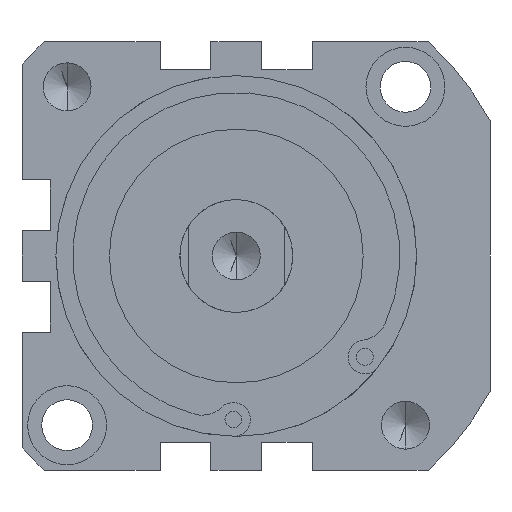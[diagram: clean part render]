
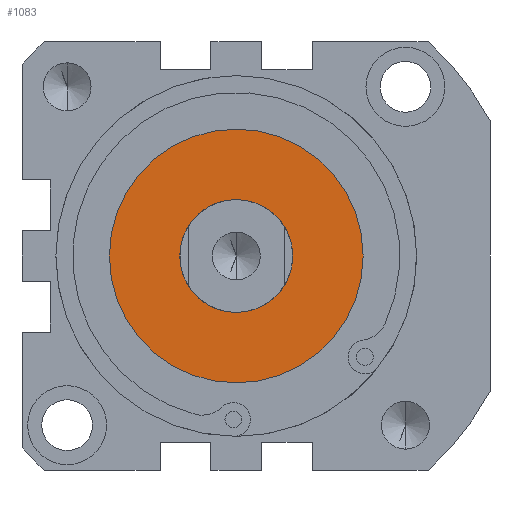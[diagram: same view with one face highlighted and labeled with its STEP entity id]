
A CAD part, front view. The second image highlights one B-rep face of the part: STEP entity #1083.
In plain terms, the highlighted planar face has unit normal (0, -1, 0).
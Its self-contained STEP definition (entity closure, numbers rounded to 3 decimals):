
#24 = FACE_OUTER_BOUND ( 'NONE', #159, .T. ) ;
#159 = EDGE_LOOP ( 'NONE', ( #4289, #925 ) ) ;
#205 = PLANE ( 'NONE',  #1124 ) ;
#222 = EDGE_CURVE ( 'NONE', #1176, #2982, #4342, .T. ) ;
#253 = CARTESIAN_POINT ( 'NONE',  ( 0., -56., 22.5 ) ) ;
#595 = AXIS2_PLACEMENT_3D ( 'NONE', #2930, #1870, #1583 ) ;
#875 = CARTESIAN_POINT ( 'NONE',  ( 0., -56., 0. ) ) ;
#925 = ORIENTED_EDGE ( 'NONE', *, *, #222, .F. ) ;
#931 = EDGE_CURVE ( 'NONE', #2982, #1176, #1185, .T. ) ;
#1001 = EDGE_CURVE ( 'NONE', #3604, #2128, #3581, .T. ) ;
#1077 = DIRECTION ( 'NONE',  ( 0., 0., 1. ) ) ;
#1083 = ADVANCED_FACE ( 'NONE', ( #24, #2524 ), #205, .F. ) ;
#1088 = CARTESIAN_POINT ( 'NONE',  ( 0., -56., 0. ) ) ;
#1124 = AXIS2_PLACEMENT_3D ( 'NONE', #875, #2948, #1251 ) ;
#1155 = AXIS2_PLACEMENT_3D ( 'NONE', #3502, #1454, #1077 ) ;
#1176 = VERTEX_POINT ( 'NONE', #253 ) ;
#1185 = CIRCLE ( 'NONE', #595, 22.5 ) ;
#1251 = DIRECTION ( 'NONE',  ( 0., 0., 1. ) ) ;
#1454 = DIRECTION ( 'NONE',  ( 0., -1., 0. ) ) ;
#1570 = DIRECTION ( 'NONE',  ( 0., 0., 1. ) ) ;
#1583 = DIRECTION ( 'NONE',  ( 0., 0., 1. ) ) ;
#1597 = ORIENTED_EDGE ( 'NONE', *, *, #1783, .F. ) ;
#1783 = EDGE_CURVE ( 'NONE', #2128, #3604, #2572, .T. ) ;
#1870 = DIRECTION ( 'NONE',  ( 0., 1., 0. ) ) ;
#2098 = CARTESIAN_POINT ( 'NONE',  ( 0., -56., -10. ) ) ;
#2128 = VERTEX_POINT ( 'NONE', #2098 ) ;
#2195 = ORIENTED_EDGE ( 'NONE', *, *, #1001, .F. ) ;
#2524 = FACE_BOUND ( 'NONE', #3228, .T. ) ;
#2572 = CIRCLE ( 'NONE', #1155, 10. ) ;
#2875 = CARTESIAN_POINT ( 'NONE',  ( 0., -56., 0. ) ) ;
#2921 = AXIS2_PLACEMENT_3D ( 'NONE', #1088, #4129, #3804 ) ;
#2930 = CARTESIAN_POINT ( 'NONE',  ( 0., -56., 0. ) ) ;
#2948 = DIRECTION ( 'NONE',  ( 0., 1., 0. ) ) ;
#2982 = VERTEX_POINT ( 'NONE', #3538 ) ;
#3100 = CARTESIAN_POINT ( 'NONE',  ( 0., -56., 10. ) ) ;
#3228 = EDGE_LOOP ( 'NONE', ( #2195, #1597 ) ) ;
#3502 = CARTESIAN_POINT ( 'NONE',  ( 0., -56., 0. ) ) ;
#3538 = CARTESIAN_POINT ( 'NONE',  ( 0., -56., -22.5 ) ) ;
#3581 = CIRCLE ( 'NONE', #4261, 10. ) ;
#3604 = VERTEX_POINT ( 'NONE', #3100 ) ;
#3804 = DIRECTION ( 'NONE',  ( 0., 0., 1. ) ) ;
#4129 = DIRECTION ( 'NONE',  ( 0., 1., 0. ) ) ;
#4212 = DIRECTION ( 'NONE',  ( 0., -1., 0. ) ) ;
#4261 = AXIS2_PLACEMENT_3D ( 'NONE', #2875, #4212, #1570 ) ;
#4289 = ORIENTED_EDGE ( 'NONE', *, *, #931, .F. ) ;
#4342 = CIRCLE ( 'NONE', #2921, 22.5 ) ;
